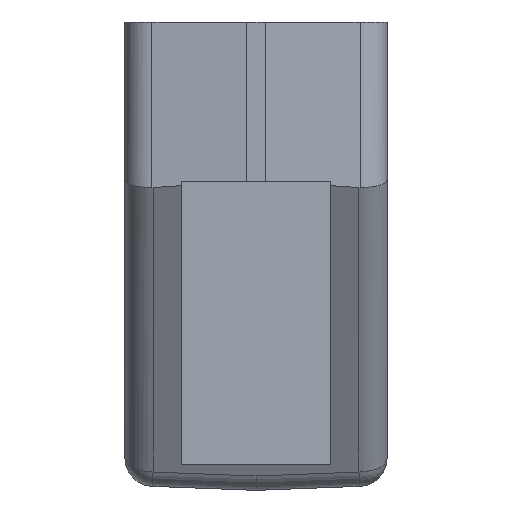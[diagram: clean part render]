
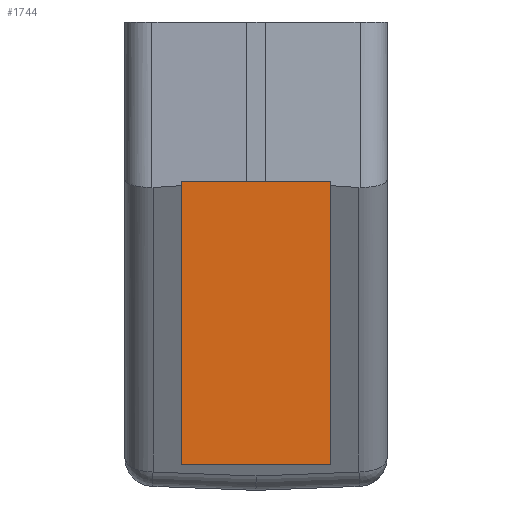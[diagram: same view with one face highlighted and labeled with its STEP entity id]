
A CAD part, left-side view. The second image highlights one B-rep face of the part: STEP entity #1744.
In plain terms, the highlighted planar face has unit normal (-1, 0, 0).
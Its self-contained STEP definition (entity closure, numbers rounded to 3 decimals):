
#75=DIRECTION('',(0.,1.,0.));
#76=VECTOR('',#75,16.);
#77=CARTESIAN_POINT('',(-81.5,-8.,-47.324));
#78=LINE('',#77,#76);
#371=DIRECTION('',(0.,0.,-1.));
#372=VECTOR('',#371,30.324);
#373=CARTESIAN_POINT('',(-81.5,8.,-17.));
#374=LINE('',#373,#372);
#383=DIRECTION('',(0.,0.,-1.));
#384=VECTOR('',#383,30.324);
#385=CARTESIAN_POINT('',(-81.5,-8.,-17.));
#386=LINE('',#385,#384);
#433=DIRECTION('',(0.,-1.,0.));
#434=VECTOR('',#433,16.);
#435=CARTESIAN_POINT('',(-81.5,8.,-17.));
#436=LINE('',#435,#434);
#953=CARTESIAN_POINT('',(-81.5,8.,-17.));
#954=CARTESIAN_POINT('',(-81.5,-8.,-17.));
#955=VERTEX_POINT('',#953);
#956=VERTEX_POINT('',#954);
#961=CARTESIAN_POINT('',(-81.5,-8.,-47.324));
#962=CARTESIAN_POINT('',(-81.5,8.,-47.324));
#963=VERTEX_POINT('',#961);
#964=VERTEX_POINT('',#962);
#1732=CARTESIAN_POINT('',(-81.5,8.,-17.));
#1733=DIRECTION('',(1.,0.,0.));
#1734=DIRECTION('',(0.,0.,-1.));
#1735=AXIS2_PLACEMENT_3D('',#1732,#1733,#1734);
#1736=PLANE('',#1735);
#1737=ORIENTED_EDGE('',*,*,#1288,.T.);
#1738=ORIENTED_EDGE('',*,*,#1658,.F.);
#1740=ORIENTED_EDGE('',*,*,#1739,.T.);
#1741=ORIENTED_EDGE('',*,*,#1695,.T.);
#1742=EDGE_LOOP('',(#1737,#1738,#1740,#1741));
#1743=FACE_OUTER_BOUND('',#1742,.F.);
#1744=ADVANCED_FACE('',(#1743),#1736,.F.);
#1288=EDGE_CURVE('',#963,#964,#78,.T.);
#1658=EDGE_CURVE('',#955,#964,#374,.T.);
#1695=EDGE_CURVE('',#956,#963,#386,.T.);
#1739=EDGE_CURVE('',#955,#956,#436,.T.);
